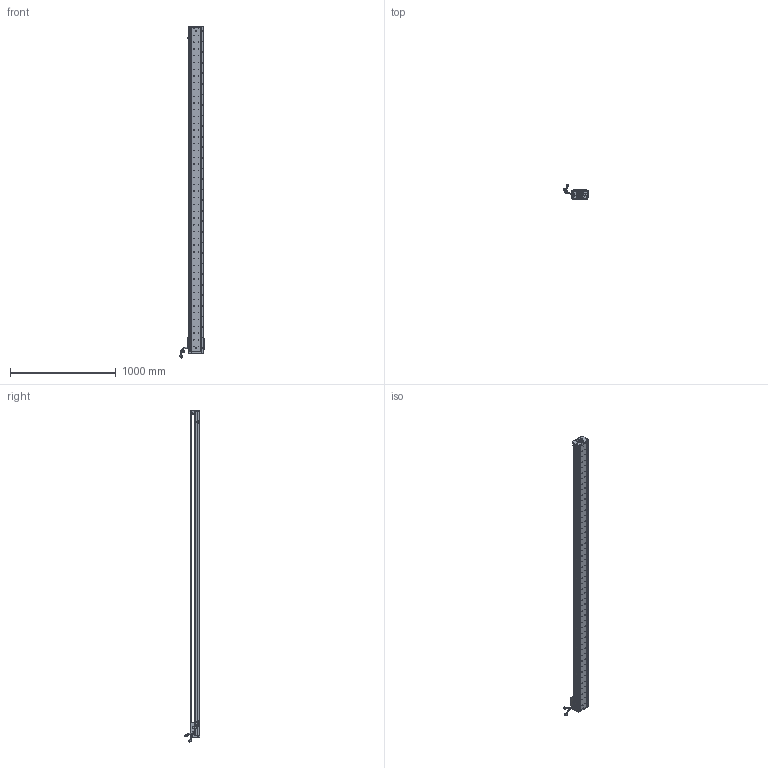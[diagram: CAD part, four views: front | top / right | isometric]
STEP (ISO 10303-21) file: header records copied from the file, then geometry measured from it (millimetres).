
FILE_DESCRIPTION (( 'STEP AP203' ), '1' );
FILE_NAME ('Z1-RY140D-1-L500-B-K.SLDASM_2900.step', '2021-05-17T07:37:08', ( '盈信电脑' ), ( '东莞市道滘镇水果街19号' ), 'SwSTEP 2.0', 'SolidWorks 2016', '' );
FILE_SCHEMA (( 'CONFIG_CONTROL_DESIGN' ));
Length unit declared in the file: millimetre
Products named in the file (36): Z-140詩湍傷裔啣; COVER-Part-1; PSLH080_PSLF2; HARNESS-Part-1; SCREW-M1.6-2; HOLDER0; SCREW-M1.6-3; 榋妏寠巭燃_暯_M2_2; SHIELDPLATE; 140-Z-臏賑輸盄裔(21遴); HARNESS; Z1-RY140-L500詩湍100mm遵_2900; SCALE-Part-1; SEAL-Part-1; LABEL; Z1-RY140-L500直线电机模组底座_2900; COVER; LABEL-Part-1; Z1-RY140圉猾敕臏賑輸(21遴); 080黍杅芛假蚾釱21遴; Z1-RY140D-1-L500-B-K.SLDASM_2900; Z-RY140感应器672光电感应片; SCALE; SCREW-M1.6-1; Z-RY140詩湍狟揤裔; SCREW-M1.6; 覜茼ん672; Z-RY140詩湍奻揤裔; SCALE-Part-2; SEAL; 140雄赽晤鎢ん堤盄; SCREW-M1.7-1; HARNESS-Part-2; 140蚥薯蝶輸; PBU_SHEET; SCREW-M1.7
Assembly tree (41 placements, depth 4):
  Z1-RY140D-1-L500-B-K.SLDASM_2900
    Z1-RY140-L500直线电机模组底座_2900
    Z-RY140感应器672光电感应片
    Z1-RY140圉猾敕臏賑輸(21遴)
    覜茼ん672  x3
    Z1-RY140-L500詩湍100mm遵_2900
    PSLH080_PSLF2
      SCALE
        SCALE-Part-1
        SCALE-Part-2
      HARNESS
        HARNESS-Part-1
        HARNESS-Part-2
      LABEL
        LABEL-Part-1
      COVER
        COVER-Part-1
      SEAL
        SEAL-Part-1
      榋妏寠巭燃_暯_M2_2
      SHIELDPLATE
      SCREW-M1.7
      SCREW-M1.7-1
      PBU_SHEET
      SCREW-M1.6
      SCREW-M1.6-1
      SCREW-M1.6-2
      SCREW-M1.6-3
      HOLDER0
    080黍杅芛假蚾釱21遴
    140-Z-臏賑輸盄裔(21遴)
    Z-140詩湍傷裔啣  x2
    Z-RY140詩湍狟揤裔  x2
    Z-RY140詩湍奻揤裔  x2
    140蚥薯蝶輸  x2
    140雄赽晤鎢ん堤盄
Bounding box: 239.79 x 143.88 x 3140.87 mm (x, y, z)
Volume: 9491183.3 mm3; surface area: 2515913.3 mm2
Topology: 36 solids, 36 shells, 4392 faces, 12050 edges, 7643 vertices
Faces by surface type: cylinder 2436, plane 1428, cone 406, torus 69, bspline 53
Entity records: 141862 total; most frequent: CARTESIAN_POINT 41241, ORIENTED_EDGE 20980, DIRECTION 19038, EDGE_CURVE 10490, AXIS2_PLACEMENT_3D 7072, VERTEX_POINT 6811, VECTOR 4894, LINE 4894
